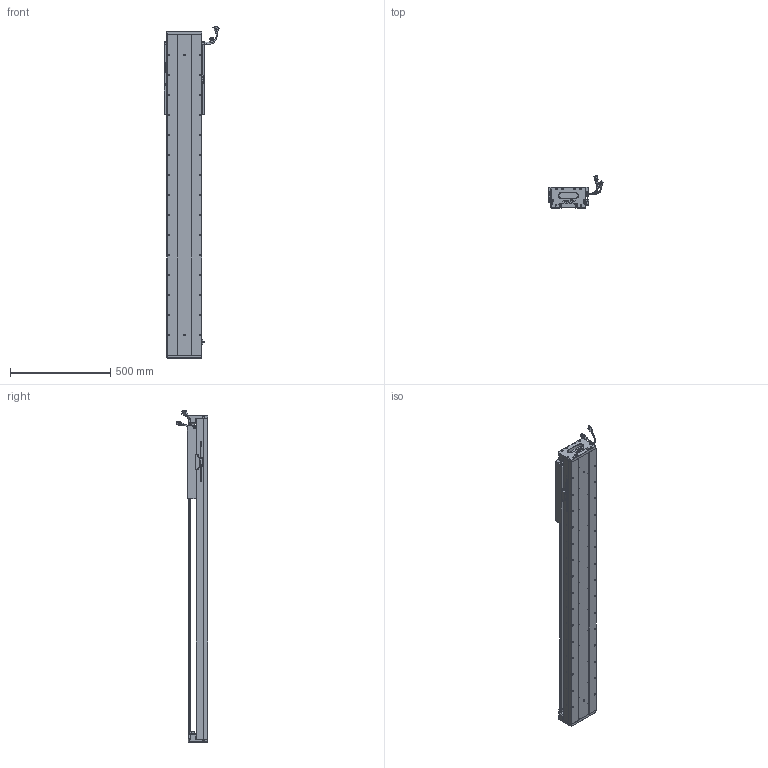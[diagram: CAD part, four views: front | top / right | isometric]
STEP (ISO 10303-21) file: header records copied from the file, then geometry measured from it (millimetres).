
FILE_DESCRIPTION (( 'STEP AP203' ), '1' );
FILE_NAME ('Z5-RY170D-1-L500-B-K.SLDASM_1150.step', '2021-05-18T00:40:14', ( '盈信电脑' ), ( '东莞市道滘镇水果街19号' ), 'SwSTEP 2.0', 'SolidWorks 2016', '' );
FILE_SCHEMA (( 'CONFIG_CONTROL_DESIGN' ));
Length unit declared in the file: millimetre
Products named in the file (36): SCREW-M1.6-1; SCALE-Part-1; SCREW-M1.6; 140蚥薯蝶輸; HARNESS; HARNESS-Part-1; Z5-RY170-L500耀郪菁釱_1150; LABEL; COVER-Part-1; SCALE-Part-2; SEAL-Part-1; Z-RY170詩湍狟揤裔; Z5-RY170-L500詩湍145mm遵_1150; SCREW-M1.7-1; 080黍杅芛假蚾釱21遴; 140雄赽晤鎢ん堤盄; RY170直线电机感应器672光电感应片; Z5-RY170D-1-L500-B-K.SLDASM_1150; 榋妏寠巭燃_暯_M2_2; Z-RY170詩湍奻揤裔; Z5-RY170臏賑輸(21遴); COVER; SEAL; PBU_SHEET; HARNESS-Part-2; SHIELDPLATE; LABEL-Part-1; SCREW-M1.7; 170-Z-臏賑輸盄裔(21遴); PSLH080_PSLF2; Z-170詩湍傷裔啣; SCREW-M1.6-2; SCALE; HOLDER0; SCREW-M1.6-3; 覜茼ん672
Assembly tree (41 placements, depth 4):
  Z5-RY170D-1-L500-B-K.SLDASM_1150
    Z5-RY170-L500耀郪菁釱_1150
    RY170直线电机感应器672光电感应片
    Z5-RY170臏賑輸(21遴)
    覜茼ん672  x3
    PSLH080_PSLF2
      SCALE
        SCALE-Part-1
        SCALE-Part-2
      HARNESS
        HARNESS-Part-1
        HARNESS-Part-2
      LABEL
        LABEL-Part-1
      COVER
        COVER-Part-1
      SEAL
        SEAL-Part-1
      榋妏寠巭燃_暯_M2_2
      SHIELDPLATE
      SCREW-M1.7
      SCREW-M1.7-1
      PBU_SHEET
      SCREW-M1.6
      SCREW-M1.6-1
      SCREW-M1.6-2
      SCREW-M1.6-3
      HOLDER0
    080黍杅芛假蚾釱21遴
    Z5-RY170-L500詩湍145mm遵_1150
    Z-170詩湍傷裔啣  x2
    Z-RY170詩湍奻揤裔  x2
    Z-RY170詩湍狟揤裔  x2
    140蚥薯蝶輸  x2
    170-Z-臏賑輸盄裔(21遴)
    140雄赽晤鎢ん堤盄
Bounding box: 275.33 x 158.11 x 1658.72 mm (x, y, z)
Volume: 9430536.6 mm3; surface area: 2230969.4 mm2
Topology: 36 solids, 36 shells, 3486 faces, 9431 edges, 5909 vertices
Faces by surface type: cylinder 1666, plane 1230, cone 468, torus 69, bspline 53
Entity records: 104943 total; most frequent: CARTESIAN_POINT 27360, ORIENTED_EDGE 15546, DIRECTION 15129, EDGE_CURVE 7773, AXIS2_PLACEMENT_3D 5584, VERTEX_POINT 5027, VECTOR 3961, LINE 3961
